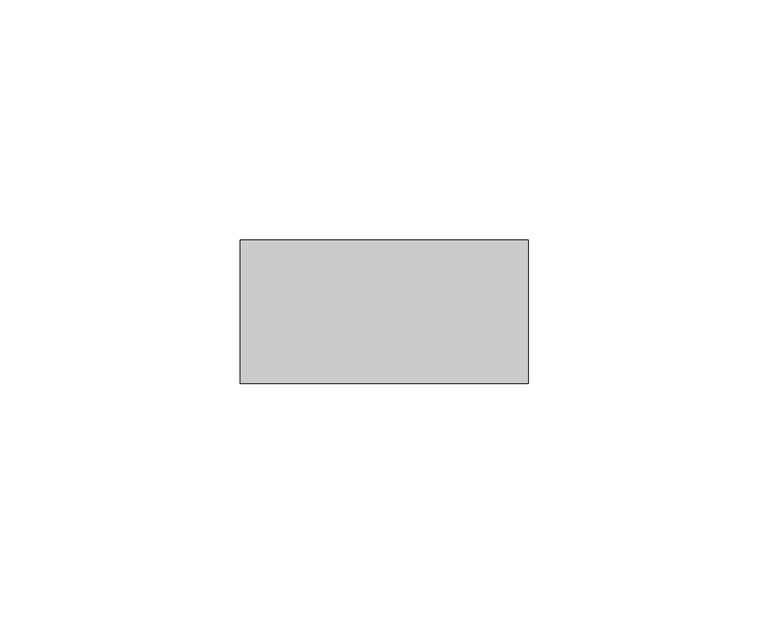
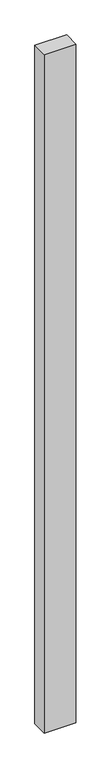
"""IFC4 building model written with IfcOpenShell, lengths in millimetres: member geometry, Прямоугольный импост : Квадрат 30 мм."""

from ifc_helpers import new_model, si_unit, frame, origin, place, context, project, spatial, polyline, outline, extrude, source, transform, mapped, element, save


def member_0fb949e0(model_context):
    return source(origin(), model_context, "Body", "SweptSolid", [
        extrude(outline(polyline([(30.0, 15.0), (30.0, -15.0), (-30.0, -15.0), (-30.0, 15.0), (30.0, 15.0)])), frame((0.0, 0.0, -1350.0), z_axis=(0.0, 0.0, 1.0), x_axis=(1.0, 0.0, 0.0)), (0.0, 0.0, 1.0), 1350.0),
    ])


if __name__ == "__main__":
    model = new_model("IFC4")
    model_context = context("Model", 3, world=origin())
    ifc_project = project(units=[si_unit("LENGTHUNIT", "METRE", prefix="MILLI")], contexts=[model_context])
    site = spatial("IfcSite", under=ifc_project)
    building = spatial("IfcBuilding", under=site)
    placement = place(None, origin())
    member_shape = member_0fb949e0(model_context)
    element("IfcMember", 1, ObjectType="Прямоугольный импост : Квадрат 30 мм", at=placement, inside=building, context=model_context, shape_type="MappedRepresentation", body=[
        mapped(member_shape, transform((0.0, 0.0, 0.0), x_axis=(1.0, 0.0, 0.0), y_axis=(0.0, 1.0, 0.0), z_axis=(0.0, 0.0, 1.0))),
    ])
    save(model, "model.ifc")
